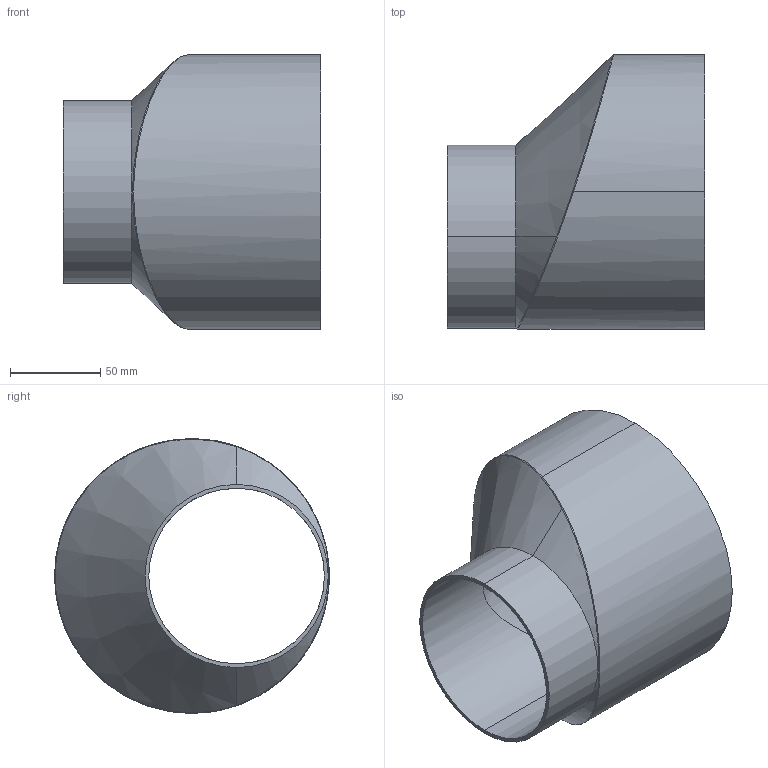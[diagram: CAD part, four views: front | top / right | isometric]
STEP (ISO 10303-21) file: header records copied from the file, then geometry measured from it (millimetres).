
FILE_DESCRIPTION (( 'STEP AP214' ), '1' );
FILE_NAME ('TE32SWW6L6.0x4.0-...STEP', '2016-06-01T08:34:04', ( 'eran' ), ( '' ), 'SwSTEP 2.0', 'SolidWorks 2016', '' );
FILE_SCHEMA (( 'AUTOMOTIVE_DESIGN' ));
Length unit declared in the file: millimetre
Products named in the file (1): TE32SWW6L6.0x4.0-..
Bounding box: 142.88 x 152.4 x 152.4 mm (x, y, z)
Volume: 570234 mm3; surface area: 117748.6 mm2
Topology: 1 solids, 1 shells, 20 faces, 48 edges, 28 vertices
Faces by surface type: cylinder 8, bspline 4, cone 4, torus 2, plane 2
Entity records: 1529 total; most frequent: CARTESIAN_POINT 1069, ORIENTED_EDGE 92, DIRECTION 83, EDGE_CURVE 46, AXIS2_PLACEMENT_3D 36, VERTEX_POINT 28, EDGE_LOOP 22, FACE_OUTER_BOUND 20
